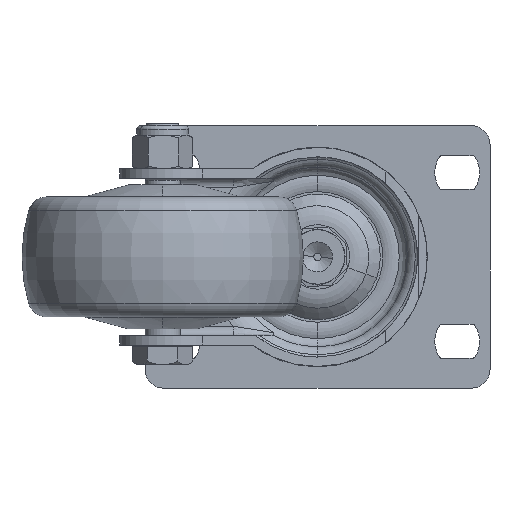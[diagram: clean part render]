
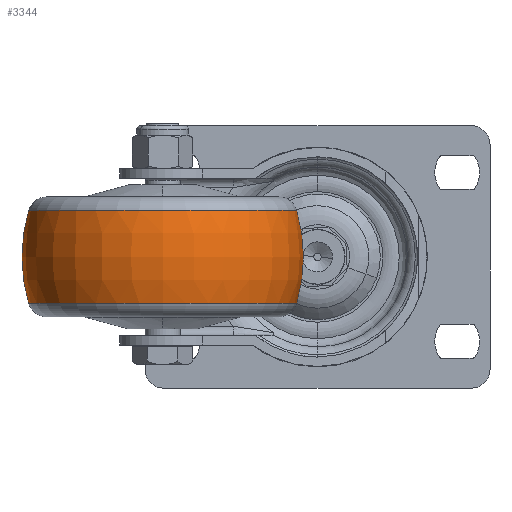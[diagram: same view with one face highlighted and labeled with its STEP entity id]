
A CAD part, front view. The second image highlights one B-rep face of the part: STEP entity #3344.
In plain terms, the highlighted toroidal (fillet/blend) face has major radius 6.667 mm and minor radius 44.167 mm.
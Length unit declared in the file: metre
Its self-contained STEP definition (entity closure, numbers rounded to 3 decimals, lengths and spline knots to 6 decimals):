
#254 = CARTESIAN_POINT ( 'NONE',  ( -0.077022, -0.075, -0.012404 ) ) ;
#401 = CARTESIAN_POINT ( 'NONE',  ( -0.005578, -0.075, 0.012404 ) ) ;
#689 = AXIS2_PLACEMENT_3D ( 'NONE', #6436, #3996, #2029 ) ;
#817 = DIRECTION ( 'NONE',  ( 0., 0., 1. ) ) ;
#1494 = CIRCLE ( 'NONE', #6064, 0.044167 ) ;
#1707 = DIRECTION ( 'NONE',  ( 0., -1., 0. ) ) ;
#1771 = DIRECTION ( 'NONE',  ( -1., 0., 0. ) ) ;
#2029 = DIRECTION ( 'NONE',  ( 1., 0., 0. ) ) ;
#2325 = DIRECTION ( 'NONE',  ( 0., 0., -1. ) ) ;
#2486 = EDGE_CURVE ( 'NONE', #7476, #6987, #4628, .T. ) ;
#2650 = DIRECTION ( 'NONE',  ( 1., 0., 0. ) ) ;
#2688 = EDGE_CURVE ( 'NONE', #6072, #6987, #6823, .T. ) ;
#2805 = DIRECTION ( 'NONE',  ( 0., 0., 1. ) ) ;
#3344 = ADVANCED_FACE ( 'NONE', ( #4719 ), #6903, .T. ) ;
#3373 = EDGE_LOOP ( 'NONE', ( #5806, #7764, #6801, #5688 ) ) ;
#3513 = AXIS2_PLACEMENT_3D ( 'NONE', #7674, #817, #7799 ) ;
#3996 = DIRECTION ( 'NONE',  ( 0., 0., 1. ) ) ;
#4628 = CIRCLE ( 'NONE', #6433, 0.044167 ) ;
#4719 = FACE_OUTER_BOUND ( 'NONE', #3373, .T. ) ;
#4770 = CARTESIAN_POINT ( 'NONE',  ( -0.077022, -0.075, 0.012404 ) ) ;
#4823 = CARTESIAN_POINT ( 'NONE',  ( -0.047967, -0.075, 0. ) ) ;
#4886 = DIRECTION ( 'NONE',  ( 0., 1., 0. ) ) ;
#5105 = EDGE_CURVE ( 'NONE', #6106, #6072, #1494, .T. ) ;
#5272 = CIRCLE ( 'NONE', #6301, 0.035722 ) ;
#5688 = ORIENTED_EDGE ( 'NONE', *, *, #2688, .F. ) ;
#5806 = ORIENTED_EDGE ( 'NONE', *, *, #5105, .F. ) ;
#6064 = AXIS2_PLACEMENT_3D ( 'NONE', #7962, #4886, #1771 ) ;
#6072 = VERTEX_POINT ( 'NONE', #4770 ) ;
#6106 = VERTEX_POINT ( 'NONE', #254 ) ;
#6301 = AXIS2_PLACEMENT_3D ( 'NONE', #6396, #2805, #2650 ) ;
#6396 = CARTESIAN_POINT ( 'NONE',  ( -0.0413, -0.075, -0.012404 ) ) ;
#6433 = AXIS2_PLACEMENT_3D ( 'NONE', #4823, #1707, #2325 ) ;
#6436 = CARTESIAN_POINT ( 'NONE',  ( -0.0413, -0.075, 0.012404 ) ) ;
#6801 = ORIENTED_EDGE ( 'NONE', *, *, #2486, .T. ) ;
#6823 = CIRCLE ( 'NONE', #689, 0.035722 ) ;
#6903 = TOROIDAL_SURFACE ( 'NONE', #3513, -0.006667, 0.044167 ) ;
#6987 = VERTEX_POINT ( 'NONE', #401 ) ;
#7276 = EDGE_CURVE ( 'NONE', #6106, #7476, #5272, .T. ) ;
#7476 = VERTEX_POINT ( 'NONE', #7559 ) ;
#7559 = CARTESIAN_POINT ( 'NONE',  ( -0.005578, -0.075, -0.012404 ) ) ;
#7674 = CARTESIAN_POINT ( 'NONE',  ( -0.0413, -0.075, 0. ) ) ;
#7764 = ORIENTED_EDGE ( 'NONE', *, *, #7276, .T. ) ;
#7799 = DIRECTION ( 'NONE',  ( 1., 0., 0. ) ) ;
#7962 = CARTESIAN_POINT ( 'NONE',  ( -0.034633, -0.075, 0. ) ) ;
